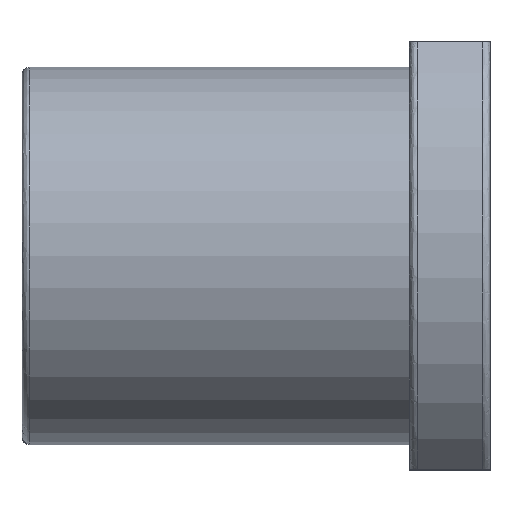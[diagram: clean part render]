
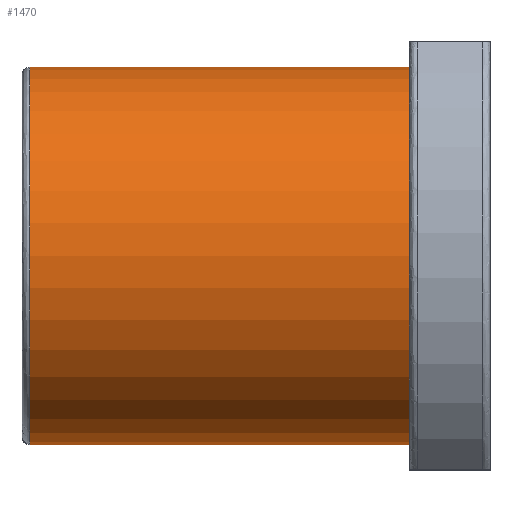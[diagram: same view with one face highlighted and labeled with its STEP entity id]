
A CAD part, top view. The second image highlights one B-rep face of the part: STEP entity #1470.
In plain terms, the highlighted cylindrical face has radius 37.5 mm (diameter 75 mm), a partial arc.
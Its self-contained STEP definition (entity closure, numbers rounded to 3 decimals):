
#32 = CARTESIAN_POINT ( 'NONE',  ( -111.5, 37.5, 0. ) ) ;
#74 = DIRECTION ( 'NONE',  ( 1., 0., 0. ) ) ;
#82 = VECTOR ( 'NONE', #1957, 1000. ) ;
#103 = VECTOR ( 'NONE', #1633, 1000. ) ;
#139 = DIRECTION ( 'NONE',  ( 0., 1., 0. ) ) ;
#276 = EDGE_LOOP ( 'NONE', ( #1749, #2054, #1334, #780 ) ) ;
#351 = VERTEX_POINT ( 'NONE', #469 ) ;
#455 = CARTESIAN_POINT ( 'NONE',  ( -111.5, -37.5, 0. ) ) ;
#469 = CARTESIAN_POINT ( 'NONE',  ( -111.5, 37.5, 0. ) ) ;
#609 = EDGE_CURVE ( 'NONE', #351, #1756, #1205, .T. ) ;
#695 = EDGE_CURVE ( 'NONE', #351, #2245, #2141, .T. ) ;
#713 = AXIS2_PLACEMENT_3D ( 'NONE', #1703, #74, #799 ) ;
#780 = ORIENTED_EDGE ( 'NONE', *, *, #695, .F. ) ;
#799 = DIRECTION ( 'NONE',  ( 0., 1., 0. ) ) ;
#829 = AXIS2_PLACEMENT_3D ( 'NONE', #1343, #1863, #139 ) ;
#871 = CARTESIAN_POINT ( 'NONE',  ( -36., 37.5, 0. ) ) ;
#981 = CIRCLE ( 'NONE', #1475, 37.5 ) ;
#1154 = EDGE_CURVE ( 'NONE', #2130, #2245, #981, .T. ) ;
#1180 = FACE_OUTER_BOUND ( 'NONE', #276, .T. ) ;
#1205 = CIRCLE ( 'NONE', #829, 37.5 ) ;
#1334 = ORIENTED_EDGE ( 'NONE', *, *, #1154, .T. ) ;
#1343 = CARTESIAN_POINT ( 'NONE',  ( -111.5, 0., 0. ) ) ;
#1378 = DIRECTION ( 'NONE',  ( -1., 0., 0. ) ) ;
#1470 = ADVANCED_FACE ( 'NONE', ( #1180 ), #1727, .T. ) ;
#1475 = AXIS2_PLACEMENT_3D ( 'NONE', #1925, #1378, #1523 ) ;
#1523 = DIRECTION ( 'NONE',  ( 0., 1., 0. ) ) ;
#1633 = DIRECTION ( 'NONE',  ( 1., 0., 0. ) ) ;
#1703 = CARTESIAN_POINT ( 'NONE',  ( -111.5, 0., 0. ) ) ;
#1727 = CYLINDRICAL_SURFACE ( 'NONE', #713, 37.5 ) ;
#1749 = ORIENTED_EDGE ( 'NONE', *, *, #609, .T. ) ;
#1756 = VERTEX_POINT ( 'NONE', #455 ) ;
#1838 = CARTESIAN_POINT ( 'NONE',  ( -111.5, -37.5, 0. ) ) ;
#1863 = DIRECTION ( 'NONE',  ( 1., 0., 0. ) ) ;
#1883 = EDGE_CURVE ( 'NONE', #1756, #2130, #1994, .T. ) ;
#1925 = CARTESIAN_POINT ( 'NONE',  ( -36., 0., 0. ) ) ;
#1957 = DIRECTION ( 'NONE',  ( 1., 0., 0. ) ) ;
#1994 = LINE ( 'NONE', #1838, #103 ) ;
#2049 = CARTESIAN_POINT ( 'NONE',  ( -36., -37.5, 0. ) ) ;
#2054 = ORIENTED_EDGE ( 'NONE', *, *, #1883, .T. ) ;
#2130 = VERTEX_POINT ( 'NONE', #2049 ) ;
#2141 = LINE ( 'NONE', #32, #82 ) ;
#2245 = VERTEX_POINT ( 'NONE', #871 ) ;
